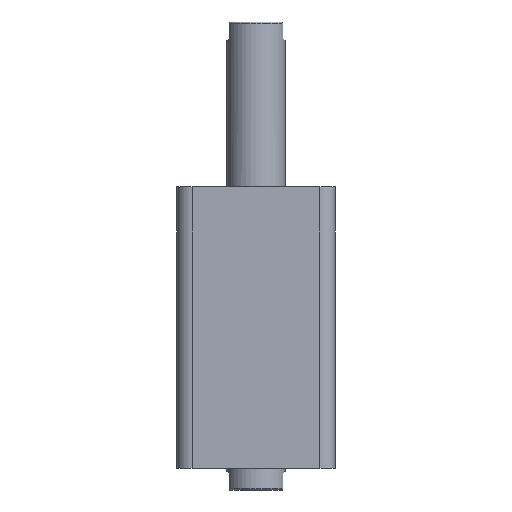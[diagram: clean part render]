
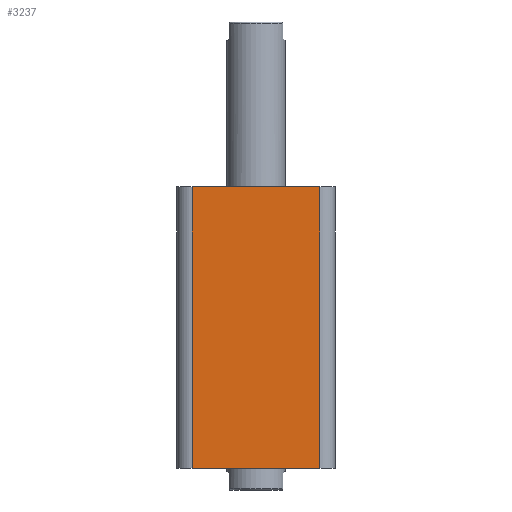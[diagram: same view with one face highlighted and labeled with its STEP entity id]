
A CAD part, front view. The second image highlights one B-rep face of the part: STEP entity #3237.
In plain terms, the highlighted planar face has unit normal (0, -1, 0).
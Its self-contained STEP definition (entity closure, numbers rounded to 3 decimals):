
#146 = CARTESIAN_POINT ( 'NONE',  ( 38., -47., 167. ) ) ;
#153 = CARTESIAN_POINT ( 'NONE',  ( -47., -47., 167. ) ) ;
#154 = DIRECTION ( 'NONE',  ( 1., 0., 0. ) ) ;
#155 = CARTESIAN_POINT ( 'NONE',  ( -47., -47., 0. ) ) ;
#157 = DIRECTION ( 'NONE',  ( 1., 0., 0. ) ) ;
#158 = DIRECTION ( 'NONE',  ( 0., 0., 1. ) ) ;
#159 = CARTESIAN_POINT ( 'NONE',  ( -38., -47., 167. ) ) ;
#160 = DIRECTION ( 'NONE',  ( 0., 0., -1. ) ) ;
#699 = CARTESIAN_POINT ( 'NONE',  ( -47., -47., 167. ) ) ;
#701 = PLANE ( 'NONE',  #2610 ) ;
#703 = DIRECTION ( 'NONE',  ( 0., 1., 0. ) ) ;
#704 = DIRECTION ( 'NONE',  ( 0., 0., 1. ) ) ;
#969 = FACE_OUTER_BOUND ( 'NONE', #3030, .T. ) ;
#1322 = ORIENTED_EDGE ( 'NONE', *, *, #2293, .F. ) ;
#1323 = ORIENTED_EDGE ( 'NONE', *, *, #2296, .T. ) ;
#1324 = ORIENTED_EDGE ( 'NONE', *, *, #2294, .T. ) ;
#1325 = ORIENTED_EDGE ( 'NONE', *, *, #2295, .T. ) ;
#1612 = LINE ( 'NONE', #146, #1622 ) ;
#1615 = LINE ( 'NONE', #153, #1618 ) ;
#1617 = LINE ( 'NONE', #155, #1620 ) ;
#1618 = VECTOR ( 'NONE', #154, 1000. ) ;
#1620 = VECTOR ( 'NONE', #157, 1000. ) ;
#1621 = LINE ( 'NONE', #159, #1624 ) ;
#1622 = VECTOR ( 'NONE', #158, 1000. ) ;
#1624 = VECTOR ( 'NONE', #160, 1000. ) ;
#2029 = VERTEX_POINT ( 'NONE', #2832 ) ;
#2118 = VERTEX_POINT ( 'NONE', #2743 ) ;
#2119 = VERTEX_POINT ( 'NONE', #2742 ) ;
#2120 = VERTEX_POINT ( 'NONE', #2741 ) ;
#2293 = EDGE_CURVE ( 'NONE', #2029, #2118, #1615, .T. ) ;
#2294 = EDGE_CURVE ( 'NONE', #2119, #2120, #1617, .T. ) ;
#2295 = EDGE_CURVE ( 'NONE', #2120, #2118, #1612, .T. ) ;
#2296 = EDGE_CURVE ( 'NONE', #2029, #2119, #1621, .T. ) ;
#2610 = AXIS2_PLACEMENT_3D ( 'NONE', #699, #703, #704 ) ;
#2741 = CARTESIAN_POINT ( 'NONE',  ( 38., -47., 0. ) ) ;
#2742 = CARTESIAN_POINT ( 'NONE',  ( -38., -47., 0. ) ) ;
#2743 = CARTESIAN_POINT ( 'NONE',  ( 38., -47., 167. ) ) ;
#2832 = CARTESIAN_POINT ( 'NONE',  ( -38., -47., 167. ) ) ;
#3030 = EDGE_LOOP ( 'NONE', ( #1322, #1323, #1324, #1325 ) ) ;
#3237 = ADVANCED_FACE ( 'NONE', ( #969 ), #701, .F. ) ;
